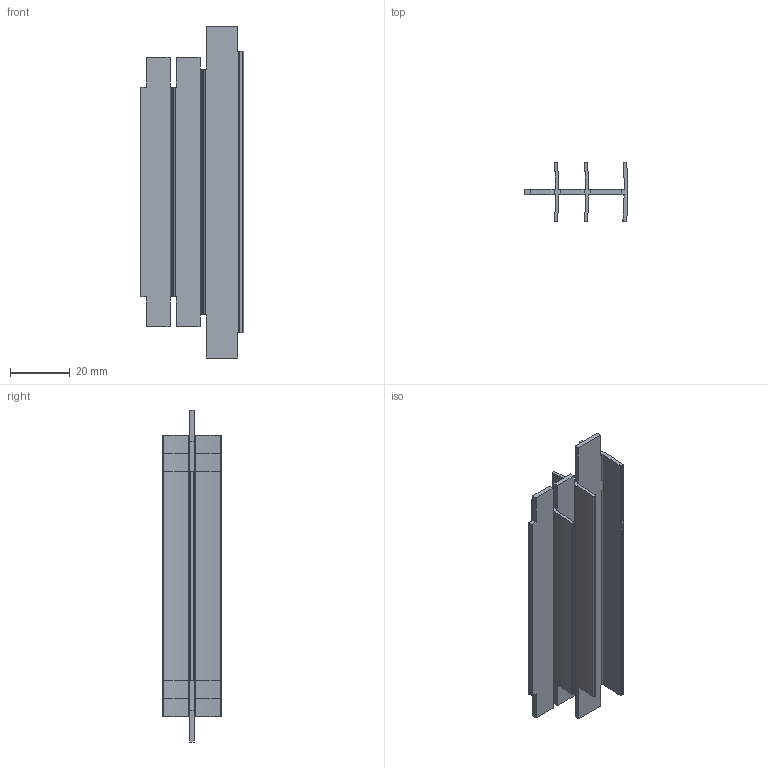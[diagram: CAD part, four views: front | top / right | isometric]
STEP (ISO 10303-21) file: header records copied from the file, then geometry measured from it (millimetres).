
FILE_DESCRIPTION(/* description */ ('VariCAD 2010-3.03 AP-214'),/* implementation_level */ '2;1');
FILE_NAME(/* name */ '0353-12-402',/* time_stamp */ '2011-05-10T16:17:16-06:00',/* author */ (''),/* organization */ (''),/* preprocessor_version */ 'ST-DEVELOPER v12',/* originating_system */ 'VariCAD 2010-3.03; kernel version (20100102)',/* authorisation */ '');
FILE_SCHEMA (('AUTOMOTIVE_DESIGN'));
Length unit declared in the file: millimetre
Products named in the file (1): Part
Bounding box: 34.61 x 19.6 x 110.82 mm (x, y, z)
Volume: 10064.4 mm3; surface area: 15835.8 mm2
Topology: 1 solids, 1 shells, 76 faces, 222 edges, 148 vertices
Faces by surface type: plane 41, cylinder 35
Entity records: 2563 total; most frequent: DIRECTION 448, CARTESIAN_POINT 448, ORIENTED_EDGE 444, EDGE_CURVE 222, LINE 152, VECTOR 152, VERTEX_POINT 148, AXIS2_PLACEMENT_3D 148
